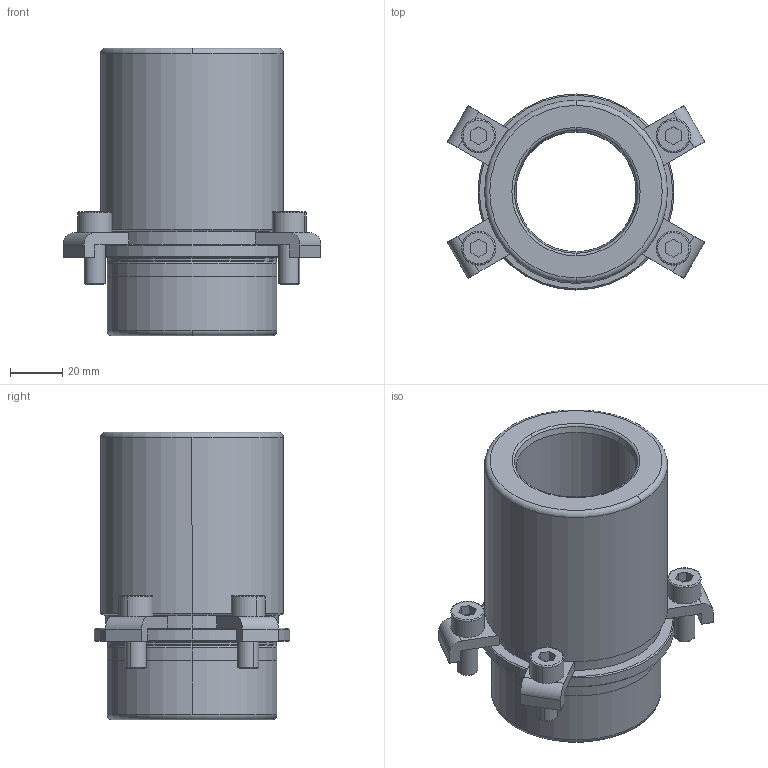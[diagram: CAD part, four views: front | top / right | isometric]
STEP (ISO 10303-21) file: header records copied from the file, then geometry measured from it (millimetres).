
FILE_DESCRIPTION((''),'2;1');
FILE_NAME('B40_038_080.stp','2009-01-05T16:31:22',(''),(''),'Mechanical Desktop 2009','Mechanical Desktop 2009',', , ');
FILE_SCHEMA(('CONFIG_CONTROL_DESIGN'));
Length unit declared in the file: millimetre
Products named in the file (2): Product; blmdl1
Assembly tree (1 placements, depth 2):
  Product
    blmdl1
Bounding box: 98.54 x 75 x 110 mm (x, y, z)
Volume: 237680.6 mm3; surface area: 54138.4 mm2
Topology: 9 solids, 9 shells, 173 faces, 422 edges, 278 vertices
Faces by surface type: plane 73, cylinder 50, cone 22, torus 16, bspline 12
Entity records: 5767 total; most frequent: CARTESIAN_POINT 1403, DIRECTION 966, ORIENTED_EDGE 844, EDGE_CURVE 422, AXIS2_PLACEMENT_3D 381, VERTEX_POINT 278, CIRCLE 218, VECTOR 204
